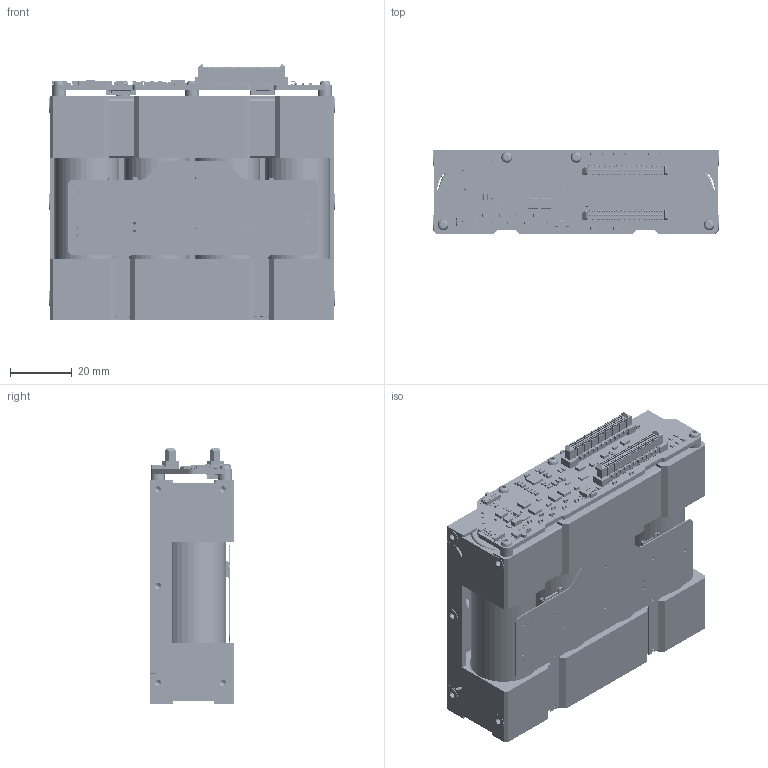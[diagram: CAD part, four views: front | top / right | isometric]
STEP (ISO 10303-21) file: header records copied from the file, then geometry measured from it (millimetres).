
FILE_DESCRIPTION (( 'STEP AP214' ), '1' );
FILE_NAME ('040500_001_BatteryBoard.STEP', '2026-11-16T13:50:01', ( '' ), ( '' ), 'SwSTEP 2.0', 'SolidWorks 2024', '' );
FILE_SCHEMA (( 'AUTOMOTIVE_DESIGN' ));
Length unit declared in the file: millimetre
Products named in the file (46): WCAP-CSGP_1206_L3.2W1.6H1.6_CMP-03913-65419937-2; Jumper_0603_1x2_C_CMP-123-000001-2; PICOLOCK_4_1MM_CMP-123-000000-1; 040500_ELE_002_BBSidePCB_V2; FP-PG-TSDSON-8-MFG_CMP-113-000001-6; 040500_ELE_001_BatteryBoard_BOARD; 040500_STR_003_BatteryHolderBottom_Standard; Fiducial-Footprint-1_CMP-00026-2_Standard; 0402_CMP-00001-4_Standard; 040500_STR_004_BatteryHolderBack_Standard; RESC1631X60N_NCW0612MC5607FP500-1; CAP_0402_CMP-00624-2_Standard; 999999_COTS_ISO_14581_M2x05_Standard; 1206_CMP-00000-8_Standard; 999999_COTS_ISO_7380-1_M2x04_Standard; INR21700 battery terminal_Standard; SOT65P210X110-6N_CMP-00620-1_Standard; SOD323F_CMP-00011-5_Standard; INR21700 battery vent_Standard; FP-503763-0691-MFG_CMP-015-000026-2_Standard; 040500_STR_002_BatteryHolderTop_Standard; 0402_CMP-00000-7; SAMTEC_ERM8-030-XX.X-X-DV-P-XX_CMP-015-000047-2; 040500_ELE_001_BatteryBoard; INR21700 M48 battery washer_Standard; 999999_COTS_002_Molicel 21700 P45B_Standard; 0603_CMP-00001-4; 21700 battery case_Standard; FP-S2761-46R-MFG_CMP-00611-3; Jumper_0603_1x3_CMP-123-000002-1; 040500_001_BatteryBoard; FP-503763-0691-MFG_CMP-015-000042-1; 21700 battery terminal -_Standard; WL-SMCW_0603_150060xx75000_CMP-00539-1_Standard; PowerDI-123_CMP-011-000011-1; HVSON8_CMP-095-000012-1; 450404015514_CMP-011-00006-1_Standard; 0603_CMP-00001-5; VQFN-HR_CMP-095-000011-2; WE-MAPI_2510_CMP-00682-1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
Assembly tree (127 placements, depth 3):
  040500_001_BatteryBoard
    040500_ELE_001_BatteryBoard
      040500_ELE_001_BatteryBoard_BOARD
      PICOLOCK_4_1MM_CMP-123-000000-1  x2
      HVSON8_CMP-095-000012-1
      VQFN-HR_CMP-095-000011-2  x2
      TQFN-24_CMP-111-000000-2
      450404015514_CMP-011-00006-1_Standard  x2
      436331045822_CMP-00664-1
      0402_CMP-00000-7  x11
      0603_CMP-00000-8_Standard  x16
      1206_CMP-00000-8_Standard
      FP-PG-TSDSON-8-MFG_CMP-113-000001-6  x4
      Jumper_0603_1x3_CMP-123-000002-1  x2
      Jumper_0603_1x2_C_CMP-123-000001-2
      FP-503763-0691-MFG_CMP-015-000042-1
      WL-SMCW_0603_150060xx75000_CMP-00539-1_Standard  x3
      SOD323F_CMP-00011-5_Standard  x3
      CAP_0402_CMP-00624-2_Standard  x2
      0402_CMP-00001-4_Standard  x2
      0603_CMP-00001-4  x4
      0603_CMP-00001-5  x9
      SAMTEC_ERM8-030-XX.X-X-DV-P-XX_CMP-015-000047-2  x2
      PowerDI-123_CMP-011-000011-1  x3
      Fiducial-Footprint-1_CMP-00026-2_Standard  x3
      FP-S2761-46R-MFG_CMP-00611-3  x18
      RESC1631X60N_NCW0612MC5607FP500-1
      WE-MAPI_2510_CMP-00682-1
      WCAP-CSGP_1206_L3.2W1.6H1.6_CMP-03913-65419937-2
      SOT65P210X110-6N_CMP-00620-1_Standard
    999999_COTS_002_Molicel 21700 P45B_Standard  x4
      21700 battery case_Standard
      INR21700 M48 battery washer_Standard
      INR21700 battery terminal_Standard
      INR21700 battery insulator_Standard
      INR21700 battery vent_Standard
      21700 battery terminal -_Standard
    040500_STR_002_BatteryHolderTop_Standard
    040500_STR_003_BatteryHolderBottom_Standard
    040500_STR_004_BatteryHolderBack_Standard
    040500_ELE_002_BBSidePCB_V2
      040500_ELE_002_BBSidePCB_V2_BOARD
      PICOLOCK_4_1MM_CMP-123-000000-2
      FP-503763-0691-MFG_CMP-015-000026-2_Standard
    999999_COTS_ISO_7380-1_M2x04_Standard  x4
    999999_COTS_ISO_14581_M2x05_Standard  x6
Bounding box: 92.3 x 27 x 83.01 mm (x, y, z)
Volume: 55424.5 mm3; surface area: 105310.7 mm2
Topology: 411 solids, 449 shells, 13771 faces, 36466 edges, 23545 vertices
Faces by surface type: plane 8687, cylinder 4303, torus 343, bspline 200, cone 138, sphere 100
Entity records: 250749 total; most frequent: CARTESIAN_POINT 40415, ORIENTED_EDGE 34696, DIRECTION 32774, EDGE_CURVE 17349, LINE 12870, VECTOR 12870, VERTEX_POINT 11267, AXIS2_PLACEMENT_3D 9952
